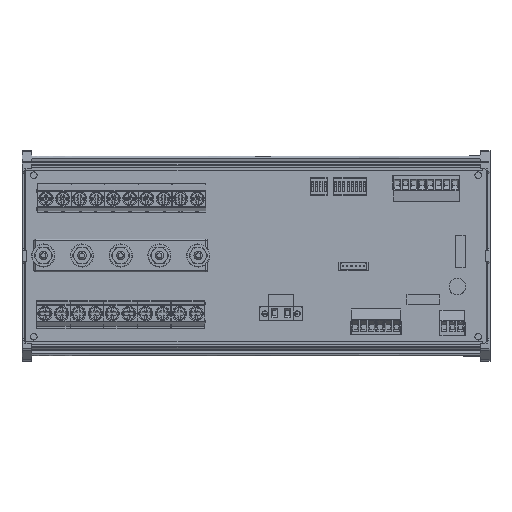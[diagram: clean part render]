
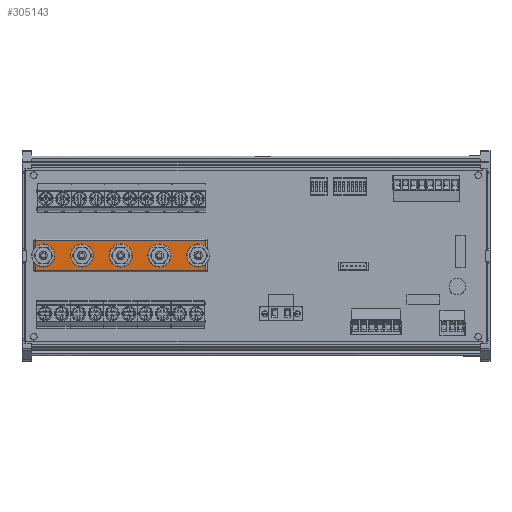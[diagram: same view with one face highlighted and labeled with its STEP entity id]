
A CAD part, top view. The second image highlights one B-rep face of the part: STEP entity #305143.
In plain terms, the highlighted planar face has unit normal (0, 0, 1).
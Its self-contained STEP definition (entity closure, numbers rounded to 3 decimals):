
#304566 = CYLINDRICAL_SURFACE('',#304567,1.);
#304567 = AXIS2_PLACEMENT_3D('',#304568,#304569,#304570);
#304568 = CARTESIAN_POINT('',(1.,0.,4.));
#304569 = DIRECTION('',(0.,1.,0.));
#304570 = DIRECTION('',(-1.,0.,0.));
#304749 = VERTEX_POINT('',#304750);
#304750 = CARTESIAN_POINT('',(1.,1.,5.));
#304770 = EDGE_CURVE('',#304749,#304771,#304773,.T.);
#304771 = VERTEX_POINT('',#304772);
#304772 = CARTESIAN_POINT('',(1.,19.,5.));
#304773 = SURFACE_CURVE('',#304774,(#304778,#304785),.PCURVE_S1.);
#304774 = LINE('',#304775,#304776);
#304775 = CARTESIAN_POINT('',(1.,0.,5.));
#304776 = VECTOR('',#304777,1.);
#304777 = DIRECTION('',(0.,1.,0.));
#304778 = PCURVE('',#304566,#304779);
#304779 = DEFINITIONAL_REPRESENTATION('',(#304780),#304784);
#304780 = LINE('',#304781,#304782);
#304781 = CARTESIAN_POINT('',(1.571,0.));
#304782 = VECTOR('',#304783,1.);
#304783 = DIRECTION('',(0.,1.));
#304784 = ( GEOMETRIC_REPRESENTATION_CONTEXT(2) 
PARAMETRIC_REPRESENTATION_CONTEXT() REPRESENTATION_CONTEXT('2D SPACE',''
  ) );
#304785 = PCURVE('',#304786,#304791);
#304786 = PLANE('',#304787);
#304787 = AXIS2_PLACEMENT_3D('',#304788,#304789,#304790);
#304788 = CARTESIAN_POINT('',(0.,0.,5.));
#304789 = DIRECTION('',(0.,0.,1.));
#304790 = DIRECTION('',(1.,0.,0.));
#304791 = DEFINITIONAL_REPRESENTATION('',(#304792),#304796);
#304792 = LINE('',#304793,#304794);
#304793 = CARTESIAN_POINT('',(1.,0.));
#304794 = VECTOR('',#304795,1.);
#304795 = DIRECTION('',(0.,1.));
#304796 = ( GEOMETRIC_REPRESENTATION_CONTEXT(2) 
PARAMETRIC_REPRESENTATION_CONTEXT() REPRESENTATION_CONTEXT('2D SPACE',''
  ) );
#304950 = CYLINDRICAL_SURFACE('',#304951,1.);
#304951 = AXIS2_PLACEMENT_3D('',#304952,#304953,#304954);
#304952 = CARTESIAN_POINT('',(0.,1.,4.));
#304953 = DIRECTION('',(1.,0.,0.));
#304954 = DIRECTION('',(0.,-1.,0.));
#305143 = ADVANCED_FACE('',(#305144),#304786,.T.);
#305144 = FACE_BOUND('',#305145,.T.);
#305145 = EDGE_LOOP('',(#305146,#305147,#305170,#305198));
#305146 = ORIENTED_EDGE('',*,*,#304770,.F.);
#305147 = ORIENTED_EDGE('',*,*,#305148,.T.);
#305148 = EDGE_CURVE('',#304749,#305149,#305151,.T.);
#305149 = VERTEX_POINT('',#305150);
#305150 = CARTESIAN_POINT('',(104.3,1.,5.));
#305151 = SURFACE_CURVE('',#305152,(#305156,#305163),.PCURVE_S1.);
#305152 = LINE('',#305153,#305154);
#305153 = CARTESIAN_POINT('',(0.,1.,5.));
#305154 = VECTOR('',#305155,1.);
#305155 = DIRECTION('',(1.,0.,0.));
#305156 = PCURVE('',#304786,#305157);
#305157 = DEFINITIONAL_REPRESENTATION('',(#305158),#305162);
#305158 = LINE('',#305159,#305160);
#305159 = CARTESIAN_POINT('',(0.,1.));
#305160 = VECTOR('',#305161,1.);
#305161 = DIRECTION('',(1.,0.));
#305162 = ( GEOMETRIC_REPRESENTATION_CONTEXT(2) 
PARAMETRIC_REPRESENTATION_CONTEXT() REPRESENTATION_CONTEXT('2D SPACE',''
  ) );
#305163 = PCURVE('',#304950,#305164);
#305164 = DEFINITIONAL_REPRESENTATION('',(#305165),#305169);
#305165 = LINE('',#305166,#305167);
#305166 = CARTESIAN_POINT('',(4.712,0.));
#305167 = VECTOR('',#305168,1.);
#305168 = DIRECTION('',(0.,1.));
#305169 = ( GEOMETRIC_REPRESENTATION_CONTEXT(2) 
PARAMETRIC_REPRESENTATION_CONTEXT() REPRESENTATION_CONTEXT('2D SPACE',''
  ) );
#305170 = ORIENTED_EDGE('',*,*,#305171,.T.);
#305171 = EDGE_CURVE('',#305149,#305172,#305174,.T.);
#305172 = VERTEX_POINT('',#305173);
#305173 = CARTESIAN_POINT('',(104.3,19.,5.));
#305174 = SURFACE_CURVE('',#305175,(#305179,#305186),.PCURVE_S1.);
#305175 = LINE('',#305176,#305177);
#305176 = CARTESIAN_POINT('',(104.3,0.,5.));
#305177 = VECTOR('',#305178,1.);
#305178 = DIRECTION('',(0.,1.,0.));
#305179 = PCURVE('',#304786,#305180);
#305180 = DEFINITIONAL_REPRESENTATION('',(#305181),#305185);
#305181 = LINE('',#305182,#305183);
#305182 = CARTESIAN_POINT('',(104.3,0.));
#305183 = VECTOR('',#305184,1.);
#305184 = DIRECTION('',(0.,1.));
#305185 = ( GEOMETRIC_REPRESENTATION_CONTEXT(2) 
PARAMETRIC_REPRESENTATION_CONTEXT() REPRESENTATION_CONTEXT('2D SPACE',''
  ) );
#305186 = PCURVE('',#305187,#305192);
#305187 = CYLINDRICAL_SURFACE('',#305188,1.);
#305188 = AXIS2_PLACEMENT_3D('',#305189,#305190,#305191);
#305189 = CARTESIAN_POINT('',(104.3,0.,4.));
#305190 = DIRECTION('',(0.,1.,0.));
#305191 = DIRECTION('',(1.,0.,0.));
#305192 = DEFINITIONAL_REPRESENTATION('',(#305193),#305197);
#305193 = LINE('',#305194,#305195);
#305194 = CARTESIAN_POINT('',(4.712,0.));
#305195 = VECTOR('',#305196,1.);
#305196 = DIRECTION('',(0.,1.));
#305197 = ( GEOMETRIC_REPRESENTATION_CONTEXT(2) 
PARAMETRIC_REPRESENTATION_CONTEXT() REPRESENTATION_CONTEXT('2D SPACE',''
  ) );
#305198 = ORIENTED_EDGE('',*,*,#305199,.F.);
#305199 = EDGE_CURVE('',#304771,#305172,#305200,.T.);
#305200 = SURFACE_CURVE('',#305201,(#305205,#305212),.PCURVE_S1.);
#305201 = LINE('',#305202,#305203);
#305202 = CARTESIAN_POINT('',(0.,19.,5.));
#305203 = VECTOR('',#305204,1.);
#305204 = DIRECTION('',(1.,0.,0.));
#305205 = PCURVE('',#304786,#305206);
#305206 = DEFINITIONAL_REPRESENTATION('',(#305207),#305211);
#305207 = LINE('',#305208,#305209);
#305208 = CARTESIAN_POINT('',(0.,19.));
#305209 = VECTOR('',#305210,1.);
#305210 = DIRECTION('',(1.,0.));
#305211 = ( GEOMETRIC_REPRESENTATION_CONTEXT(2) 
PARAMETRIC_REPRESENTATION_CONTEXT() REPRESENTATION_CONTEXT('2D SPACE',''
  ) );
#305212 = PCURVE('',#305213,#305218);
#305213 = CYLINDRICAL_SURFACE('',#305214,1.);
#305214 = AXIS2_PLACEMENT_3D('',#305215,#305216,#305217);
#305215 = CARTESIAN_POINT('',(0.,19.,4.));
#305216 = DIRECTION('',(1.,0.,0.));
#305217 = DIRECTION('',(0.,1.,0.));
#305218 = DEFINITIONAL_REPRESENTATION('',(#305219),#305223);
#305219 = LINE('',#305220,#305221);
#305220 = CARTESIAN_POINT('',(1.571,0.));
#305221 = VECTOR('',#305222,1.);
#305222 = DIRECTION('',(0.,1.));
#305223 = ( GEOMETRIC_REPRESENTATION_CONTEXT(2) 
PARAMETRIC_REPRESENTATION_CONTEXT() REPRESENTATION_CONTEXT('2D SPACE',''
  ) );
